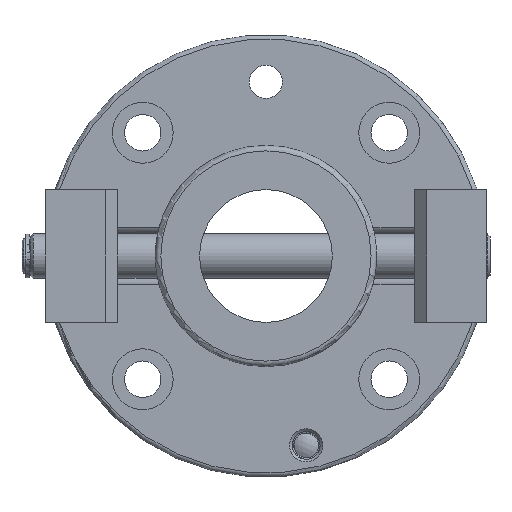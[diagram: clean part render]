
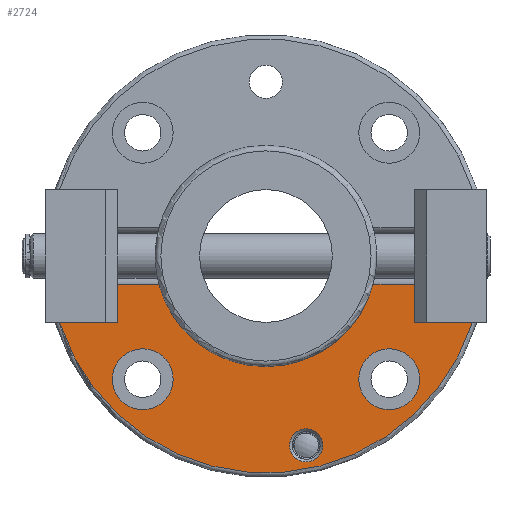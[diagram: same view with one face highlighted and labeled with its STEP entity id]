
A CAD part, front view. The second image highlights one B-rep face of the part: STEP entity #2724.
In plain terms, the highlighted planar face has unit normal (0, -1, 0).
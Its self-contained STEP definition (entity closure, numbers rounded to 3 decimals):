
#83=FACE_BOUND('',#394,.T.);
#84=FACE_BOUND('',#395,.T.);
#85=FACE_BOUND('',#396,.T.);
#116=PLANE('',#2914);
#243=FACE_OUTER_BOUND('',#393,.T.);
#393=EDGE_LOOP('',(#1805,#1806,#1807,#1808,#1809,#1810,#1811,#1812));
#394=EDGE_LOOP('',(#1813,#1814));
#395=EDGE_LOOP('',(#1815,#1816));
#396=EDGE_LOOP('',(#1817));
#573=LINE('',#4109,#750);
#574=LINE('',#4111,#751);
#575=LINE('',#4113,#752);
#576=LINE('',#4117,#753);
#577=LINE('',#4119,#754);
#578=LINE('',#4120,#755);
#750=VECTOR('',#3279,10.);
#751=VECTOR('',#3280,10.);
#752=VECTOR('',#3281,10.);
#753=VECTOR('',#3284,10.);
#754=VECTOR('',#3285,10.);
#755=VECTOR('',#3286,10.);
#931=CIRCLE('',#2908,3.);
#936=CIRCLE('',#2915,39.2);
#937=CIRCLE('',#2916,20.);
#938=CIRCLE('',#2917,5.5);
#939=CIRCLE('',#2918,5.5);
#940=CIRCLE('',#2919,5.5);
#941=CIRCLE('',#2920,5.5);
#1111=VERTEX_POINT('',#4091);
#1116=VERTEX_POINT('',#4105);
#1117=VERTEX_POINT('',#4106);
#1118=VERTEX_POINT('',#4108);
#1119=VERTEX_POINT('',#4110);
#1120=VERTEX_POINT('',#4112);
#1121=VERTEX_POINT('',#4114);
#1122=VERTEX_POINT('',#4116);
#1123=VERTEX_POINT('',#4118);
#1124=VERTEX_POINT('',#4121);
#1125=VERTEX_POINT('',#4122);
#1126=VERTEX_POINT('',#4125);
#1127=VERTEX_POINT('',#4126);
#1394=EDGE_CURVE('',#1111,#1111,#931,.T.);
#1401=EDGE_CURVE('',#1116,#1117,#936,.T.);
#1402=EDGE_CURVE('',#1116,#1118,#573,.T.);
#1403=EDGE_CURVE('',#1119,#1118,#574,.T.);
#1404=EDGE_CURVE('',#1119,#1120,#575,.T.);
#1405=EDGE_CURVE('',#1120,#1121,#937,.T.);
#1406=EDGE_CURVE('',#1121,#1122,#576,.T.);
#1407=EDGE_CURVE('',#1123,#1122,#577,.T.);
#1408=EDGE_CURVE('',#1123,#1117,#578,.T.);
#1409=EDGE_CURVE('',#1124,#1125,#938,.T.);
#1410=EDGE_CURVE('',#1125,#1124,#939,.T.);
#1411=EDGE_CURVE('',#1126,#1127,#940,.T.);
#1412=EDGE_CURVE('',#1127,#1126,#941,.T.);
#1805=ORIENTED_EDGE('',*,*,#1401,.F.);
#1806=ORIENTED_EDGE('',*,*,#1402,.T.);
#1807=ORIENTED_EDGE('',*,*,#1403,.F.);
#1808=ORIENTED_EDGE('',*,*,#1404,.T.);
#1809=ORIENTED_EDGE('',*,*,#1405,.T.);
#1810=ORIENTED_EDGE('',*,*,#1406,.T.);
#1811=ORIENTED_EDGE('',*,*,#1407,.F.);
#1812=ORIENTED_EDGE('',*,*,#1408,.T.);
#1813=ORIENTED_EDGE('',*,*,#1409,.T.);
#1814=ORIENTED_EDGE('',*,*,#1410,.T.);
#1815=ORIENTED_EDGE('',*,*,#1411,.T.);
#1816=ORIENTED_EDGE('',*,*,#1412,.T.);
#1817=ORIENTED_EDGE('',*,*,#1394,.F.);
#2724=ADVANCED_FACE('',(#243,#83,#84,#85),#116,.T.);
#2908=AXIS2_PLACEMENT_3D('',#4092,#3261,#3262);
#2914=AXIS2_PLACEMENT_3D('',#4104,#3275,#3276);
#2915=AXIS2_PLACEMENT_3D('',#4107,#3277,#3278);
#2916=AXIS2_PLACEMENT_3D('',#4115,#3282,#3283);
#2917=AXIS2_PLACEMENT_3D('',#4123,#3287,#3288);
#2918=AXIS2_PLACEMENT_3D('',#4124,#3289,#3290);
#2919=AXIS2_PLACEMENT_3D('',#4127,#3291,#3292);
#2920=AXIS2_PLACEMENT_3D('',#4128,#3293,#3294);
#3261=DIRECTION('center_axis',(0.,-1.,0.));
#3262=DIRECTION('ref_axis',(-1.,0.,0.));
#3275=DIRECTION('center_axis',(0.,-1.,0.));
#3276=DIRECTION('ref_axis',(0.,0.,-1.));
#3277=DIRECTION('center_axis',(0.,1.,0.));
#3278=DIRECTION('ref_axis',(0.,0.,-1.));
#3279=DIRECTION('',(-1.,0.,0.));
#3280=DIRECTION('',(0.,0.,-1.));
#3281=DIRECTION('',(-1.,0.,0.));
#3282=DIRECTION('center_axis',(0.,1.,0.));
#3283=DIRECTION('ref_axis',(-1.,0.,0.));
#3284=DIRECTION('',(-1.,0.,0.));
#3285=DIRECTION('',(0.,0.,1.));
#3286=DIRECTION('',(-1.,0.,0.));
#3287=DIRECTION('center_axis',(0.,1.,0.));
#3288=DIRECTION('ref_axis',(1.,0.,0.));
#3289=DIRECTION('center_axis',(0.,1.,0.));
#3290=DIRECTION('ref_axis',(1.,0.,0.));
#3291=DIRECTION('center_axis',(0.,1.,0.));
#3292=DIRECTION('ref_axis',(1.,0.,0.));
#3293=DIRECTION('center_axis',(0.,1.,0.));
#3294=DIRECTION('ref_axis',(1.,0.,0.));
#4091=CARTESIAN_POINT('',(10.277,5.,-34.235));
#4092=CARTESIAN_POINT('Origin',(7.277,5.,-34.235));
#4104=CARTESIAN_POINT('Origin',(-30.,5.,0.));
#4105=CARTESIAN_POINT('',(37.318,5.,-12.));
#4106=CARTESIAN_POINT('',(-37.318,5.,-12.));
#4107=CARTESIAN_POINT('Origin',(0.,5.,0.));
#4108=CARTESIAN_POINT('',(29.,5.,-12.));
#4109=CARTESIAN_POINT('',(1.84,5.,-12.));
#4110=CARTESIAN_POINT('',(29.,5.,-5.1));
#4111=CARTESIAN_POINT('',(29.,5.,0.));
#4112=CARTESIAN_POINT('',(19.339,5.,-5.1));
#4113=CARTESIAN_POINT('',(29.,5.,-5.1));
#4114=CARTESIAN_POINT('',(-19.339,5.,-5.1));
#4115=CARTESIAN_POINT('Origin',(0.,5.,0.));
#4116=CARTESIAN_POINT('',(-29.,5.,-5.1));
#4117=CARTESIAN_POINT('',(-29.,5.,-5.1));
#4118=CARTESIAN_POINT('',(-29.,5.,-12.));
#4119=CARTESIAN_POINT('',(-29.,5.,0.));
#4120=CARTESIAN_POINT('',(-31.84,5.,-12.));
#4121=CARTESIAN_POINT('',(-16.774,5.,-22.274));
#4122=CARTESIAN_POINT('',(-27.774,5.,-22.274));
#4123=CARTESIAN_POINT('Origin',(-22.274,5.,-22.274));
#4124=CARTESIAN_POINT('Origin',(-22.274,5.,-22.274));
#4125=CARTESIAN_POINT('',(27.774,5.,-22.274));
#4126=CARTESIAN_POINT('',(16.774,5.,-22.274));
#4127=CARTESIAN_POINT('Origin',(22.274,5.,-22.274));
#4128=CARTESIAN_POINT('Origin',(22.274,5.,-22.274));
